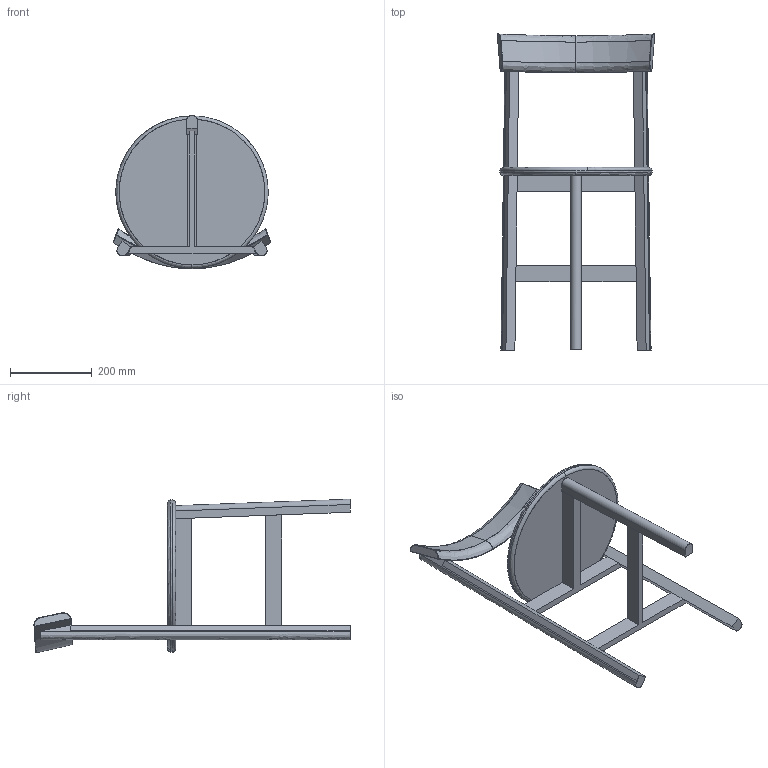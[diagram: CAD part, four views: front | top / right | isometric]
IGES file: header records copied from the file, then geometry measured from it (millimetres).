
Start section: SolidWorks IGES file using analytic representation for surfaces
Global section: file name: C:\Users\David.BDLE\Desktop\Novos produtos\797 Petit Chair 3_version b\797 Petit Chair 3_3D IGS.IGS; native system: SolidWorks 2016; preprocessor: SolidWorks 2016; author: David; date: 210614.100317; units: millimetre
Bounding box: 385.24 x 773.47 x 375.85 mm (x, y, z)
Surface area: 629551.6 mm2 (no closed solid volume)
Topology: 0 solids, 0 shells, 79 faces, 757 edges, 749 vertices
Faces by surface type: bspline 77, revolution 2
